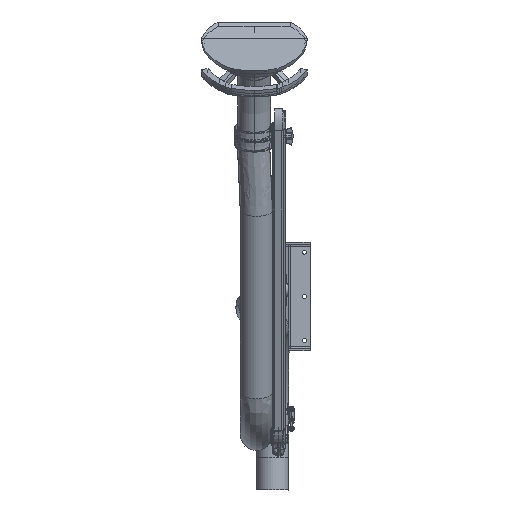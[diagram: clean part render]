
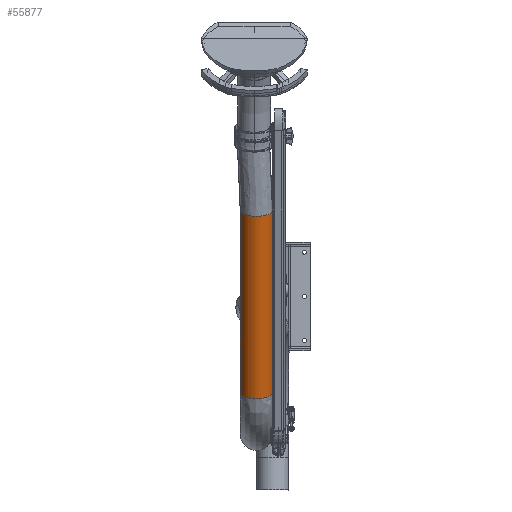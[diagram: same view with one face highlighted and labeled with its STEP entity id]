
A CAD part, front view. The second image highlights one B-rep face of the part: STEP entity #55877.
In plain terms, the highlighted free-form (B-spline) face has degree [3, 3] with [7, 6] control points.
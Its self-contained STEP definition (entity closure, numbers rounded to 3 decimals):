
#53990=CARTESIAN_POINT('',(-100.,0.,-275.));
#53991=CARTESIAN_POINT('',(-100.,0.,-341.667));
#53992=CARTESIAN_POINT('',(-100.,0.,-475.));
#53993=CARTESIAN_POINT('',(-100.,0.,-675.));
#53994=CARTESIAN_POINT('',(-100.,0.,-808.333));
#53995=CARTESIAN_POINT('',(-100.,0.,-875.));
#54000=CARTESIAN_POINT('',(-50.,0.,-275.));
#54001=DIRECTION('',(0.,0.,-1.));
#54002=DIRECTION('',(1.,0.,0.));
#54003=AXIS2_PLACEMENT_3D('',#54000,#54001,#54002);
#54008=CARTESIAN_POINT('',(0.,0.,-275.));
#54009=CARTESIAN_POINT('',(0.,0.,-341.667));
#54010=CARTESIAN_POINT('',(0.,0.,-475.));
#54011=CARTESIAN_POINT('',(0.,0.,-675.));
#54012=CARTESIAN_POINT('',(0.,0.,-808.333));
#54013=CARTESIAN_POINT('',(0.,0.,-875.));
#54018=CARTESIAN_POINT('',(-50.,0.,-875.));
#54019=DIRECTION('',(0.,0.,-1.));
#54020=DIRECTION('',(1.,0.,0.));
#54021=AXIS2_PLACEMENT_3D('',#54018,#54019,#54020);
#55528=CARTESIAN_POINT('',(0.,0.,-275.));
#55529=CARTESIAN_POINT('',(-100.,0.,-275.));
#55530=VERTEX_POINT('',#55528);
#55531=VERTEX_POINT('',#55529);
#55536=CARTESIAN_POINT('',(0.,0.,-875.));
#55537=CARTESIAN_POINT('',(-100.,0.,-875.));
#55538=VERTEX_POINT('',#55536);
#55539=VERTEX_POINT('',#55537);
#55827=CARTESIAN_POINT('',(-0.099,3.14,-263.));
#55828=CARTESIAN_POINT('',(-0.099,3.14,-267.));
#55829=CARTESIAN_POINT('',(-0.099,3.14,-471.));
#55830=CARTESIAN_POINT('',(-0.099,3.14,-679.));
#55831=CARTESIAN_POINT('',(-0.099,3.14,-883.));
#55832=CARTESIAN_POINT('',(-0.099,3.14,-887.));
#55833=CARTESIAN_POINT('',(1.833,-27.57,-263.));
#55834=CARTESIAN_POINT('',(1.833,-27.57,-267.));
#55835=CARTESIAN_POINT('',(1.833,-27.57,-471.));
#55836=CARTESIAN_POINT('',(1.833,-27.57,-679.));
#55837=CARTESIAN_POINT('',(1.833,-27.57,-883.));
#55838=CARTESIAN_POINT('',(1.833,-27.57,-887.));
#55839=CARTESIAN_POINT('',(-19.23,-50.,-263.));
#55840=CARTESIAN_POINT('',(-19.23,-50.,-267.));
#55841=CARTESIAN_POINT('',(-19.23,-50.,-471.));
#55842=CARTESIAN_POINT('',(-19.23,-50.,-679.));
#55843=CARTESIAN_POINT('',(-19.23,-50.,-883.));
#55844=CARTESIAN_POINT('',(-19.23,-50.,-887.));
#55845=CARTESIAN_POINT('',(-50.,-50.,-263.));
#55846=CARTESIAN_POINT('',(-50.,-50.,-267.));
#55847=CARTESIAN_POINT('',(-50.,-50.,-471.));
#55848=CARTESIAN_POINT('',(-50.,-50.,-679.));
#55849=CARTESIAN_POINT('',(-50.,-50.,-883.));
#55850=CARTESIAN_POINT('',(-50.,-50.,-887.));
#55851=CARTESIAN_POINT('',(-80.77,-50.,-263.));
#55852=CARTESIAN_POINT('',(-80.77,-50.,-267.));
#55853=CARTESIAN_POINT('',(-80.77,-50.,-471.));
#55854=CARTESIAN_POINT('',(-80.77,-50.,-679.));
#55855=CARTESIAN_POINT('',(-80.77,-50.,-883.));
#55856=CARTESIAN_POINT('',(-80.77,-50.,-887.));
#55857=CARTESIAN_POINT('',(-101.833,-27.57,-263.));
#55858=CARTESIAN_POINT('',(-101.833,-27.57,-267.));
#55859=CARTESIAN_POINT('',(-101.833,-27.57,-471.));
#55860=CARTESIAN_POINT('',(-101.833,-27.57,-679.));
#55861=CARTESIAN_POINT('',(-101.833,-27.57,-883.));
#55862=CARTESIAN_POINT('',(-101.833,-27.57,-887.));
#55863=CARTESIAN_POINT('',(-99.901,3.14,-263.));
#55864=CARTESIAN_POINT('',(-99.901,3.14,-267.));
#55865=CARTESIAN_POINT('',(-99.901,3.14,-471.));
#55866=CARTESIAN_POINT('',(-99.901,3.14,-679.));
#55867=CARTESIAN_POINT('',(-99.901,3.14,-883.));
#55868=CARTESIAN_POINT('',(-99.901,3.14,-887.));
#55869=(BOUNDED_SURFACE()B_SPLINE_SURFACE(3,3,((#55827,#55828,#55829,#55830,
#55831,#55832),(#55833,#55834,#55835,#55836,#55837,#55838),(#55839,#55840,
#55841,#55842,#55843,#55844),(#55845,#55846,#55847,#55848,#55849,#55850),
(#55851,#55852,#55853,#55854,#55855,#55856),(#55857,#55858,#55859,#55860,#55861,
#55862),(#55863,#55864,#55865,#55866,#55867,#55868)),.UNSPECIFIED.,.F.,.F.,.F.)B_SPLINE_SURFACE_WITH_KNOTS((4,3,4),(4,1,1,4),(0.,1.,2.),(-0.02,0.,1.,
1.02),.UNSPECIFIED.)GEOMETRIC_REPRESENTATION_ITEM()RATIONAL_B_SPLINE_SURFACE((
(1.187,1.187,1.187,1.187,
1.187,1.187),(0.938,0.938,
0.938,0.938,0.938,0.938),(
0.938,0.938,0.938,0.938,
0.938,0.938),(1.187,1.187,
1.187,1.187,1.187,1.187),(
0.938,0.938,0.938,0.938,
0.938,0.938),(0.938,0.938,
0.938,0.938,0.938,0.938),(
1.187,1.187,1.187,1.187,
1.187,1.187)))REPRESENTATION_ITEM('')SURFACE());
#55870=ORIENTED_EDGE('',*,*,#55681,.F.);
#55871=ORIENTED_EDGE('',*,*,#55815,.T.);
#55873=ORIENTED_EDGE('',*,*,#55872,.T.);
#55874=ORIENTED_EDGE('',*,*,#55811,.F.);
#55875=EDGE_LOOP('',(#55870,#55871,#55873,#55874));
#55876=FACE_OUTER_BOUND('',#55875,.F.);
#53996=B_SPLINE_CURVE_WITH_KNOTS('',3,(#53990,#53991,#53992,#53993,#53994,
#53995),.UNSPECIFIED.,.F.,.F.,(4,1,1,4),(0.,0.333,
0.667,1.),.UNSPECIFIED.);
#54004=CIRCLE('',#54003,50.);
#54014=B_SPLINE_CURVE_WITH_KNOTS('',3,(#54008,#54009,#54010,#54011,#54012,
#54013),.UNSPECIFIED.,.F.,.F.,(4,1,1,4),(0.,0.333,
0.667,1.),.UNSPECIFIED.);
#54022=CIRCLE('',#54021,50.);
#55681=EDGE_CURVE('',#55530,#55531,#54004,.T.);
#55811=EDGE_CURVE('',#55531,#55539,#53996,.T.);
#55815=EDGE_CURVE('',#55530,#55538,#54014,.T.);
#55872=EDGE_CURVE('',#55538,#55539,#54022,.T.);
#55877=ADVANCED_FACE('',(#55876),#55869,.T.);
